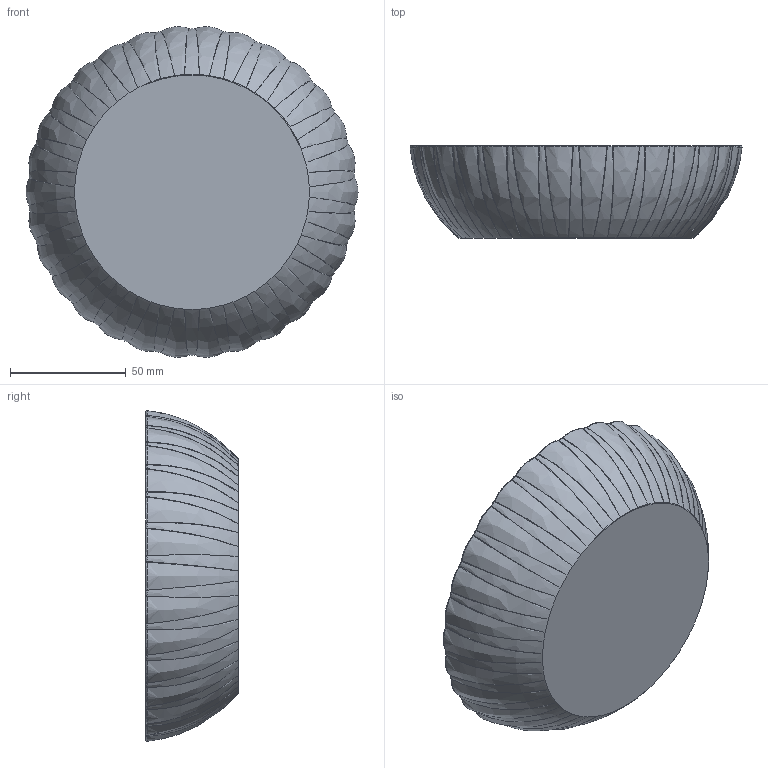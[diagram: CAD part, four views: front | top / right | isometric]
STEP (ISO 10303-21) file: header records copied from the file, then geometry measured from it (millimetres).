
FILE_DESCRIPTION (( 'STEP AP203' ), '1' );
FILE_NAME ('Ders-29 Exercise-1 (Bowl).STEP', '2025-12-07T20:18:29', ( '' ), ( '' ), 'SwSTEP 2.0', 'SolidWorks 2025', '' );
FILE_SCHEMA (( 'CONFIG_CONTROL_DESIGN' ));
Products named in the file (1): Ders-29 Exercise-1 (Bowl)
Bounding box: 143.61 x 40 x 142.94 mm (x, y, z)
Volume: 51797 mm3; surface area: 52552.5 mm2
Topology: 1 solids, 1 shells, 554 faces, 1358 edges, 758 vertices
Faces by surface type: bspline 490, sphere 61, plane 3
Entity records: 111629 total; most frequent: CARTESIAN_POINT 102482, ORIENTED_EDGE 2618, EDGE_CURVE 1309, B_SPLINE_CURVE_WITH_KNOTS 966, DIRECTION 816, VERTEX_POINT 758, EDGE_LOOP 555, FACE_OUTER_BOUND 554
